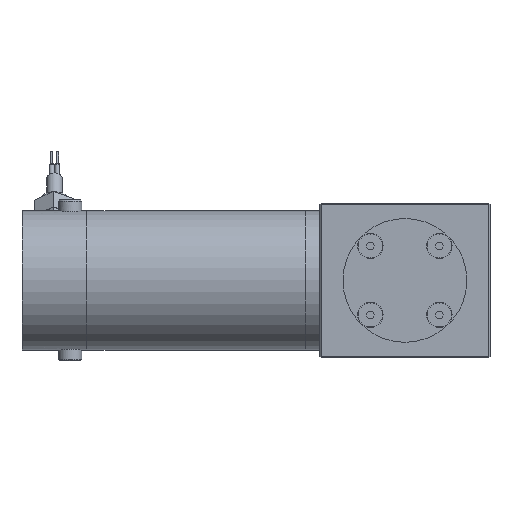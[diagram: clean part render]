
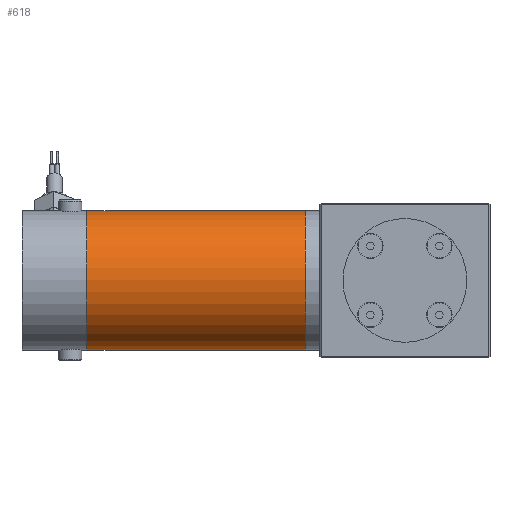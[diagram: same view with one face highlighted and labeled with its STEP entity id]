
A CAD part, left-side view. The second image highlights one B-rep face of the part: STEP entity #618.
In plain terms, the highlighted cylindrical face has radius 28.575 mm (diameter 57.15 mm), a partial arc.
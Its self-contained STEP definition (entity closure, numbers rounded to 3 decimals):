
#607 = EDGE_LOOP ( 'NONE', ( #4008, #13108, #3829, #9629 ) ) ;
#618 = ADVANCED_FACE ( 'NONE', ( #14126 ), #2862, .T. ) ;
#850 = CARTESIAN_POINT ( 'NONE',  ( 146.144, 184.359, 120.952 ) ) ;
#2363 = DIRECTION ( 'NONE',  ( 0., -1., 0. ) ) ;
#2862 = CYLINDRICAL_SURFACE ( 'NONE', #4767, 28.575 ) ;
#3550 = VECTOR ( 'NONE', #5002, 1000. ) ;
#3611 = DIRECTION ( 'NONE',  ( 0., 0., 1. ) ) ;
#3788 = AXIS2_PLACEMENT_3D ( 'NONE', #6089, #9963, #3611 ) ;
#3829 = ORIENTED_EDGE ( 'NONE', *, *, #14065, .T. ) ;
#3972 = DIRECTION ( 'NONE',  ( 0., 0., -1. ) ) ;
#4008 = ORIENTED_EDGE ( 'NONE', *, *, #12719, .F. ) ;
#4767 = AXIS2_PLACEMENT_3D ( 'NONE', #15232, #2363, #10182 ) ;
#5002 = DIRECTION ( 'NONE',  ( 0., -1., 0. ) ) ;
#5755 = LINE ( 'NONE', #7656, #3550 ) ;
#6089 = CARTESIAN_POINT ( 'NONE',  ( 146.144, 94.809, 92.377 ) ) ;
#7656 = CARTESIAN_POINT ( 'NONE',  ( 146.144, 500211.029, 120.952 ) ) ;
#7748 = DIRECTION ( 'NONE',  ( 0., -1., 0. ) ) ;
#8718 = VECTOR ( 'NONE', #10446, 1000. ) ;
#9038 = CARTESIAN_POINT ( 'NONE',  ( 146.144, 94.809, 120.952 ) ) ;
#9043 = CARTESIAN_POINT ( 'NONE',  ( 146.144, 184.359, 92.377 ) ) ;
#9103 = EDGE_CURVE ( 'NONE', #11135, #14707, #12794, .T. ) ;
#9629 = ORIENTED_EDGE ( 'NONE', *, *, #11073, .T. ) ;
#9963 = DIRECTION ( 'NONE',  ( 0., 1., 0. ) ) ;
#10182 = DIRECTION ( 'NONE',  ( 0., 0., -1. ) ) ;
#10446 = DIRECTION ( 'NONE',  ( 0., -1., 0. ) ) ;
#10652 = CARTESIAN_POINT ( 'NONE',  ( 146.144, 184.359, 63.802 ) ) ;
#11073 = EDGE_CURVE ( 'NONE', #13465, #11696, #12420, .T. ) ;
#11135 = VERTEX_POINT ( 'NONE', #850 ) ;
#11696 = VERTEX_POINT ( 'NONE', #9038 ) ;
#11837 = CARTESIAN_POINT ( 'NONE',  ( 146.144, 500211.029, 63.802 ) ) ;
#12420 = CIRCLE ( 'NONE', #3788, 28.575 ) ;
#12474 = AXIS2_PLACEMENT_3D ( 'NONE', #9043, #7748, #3972 ) ;
#12719 = EDGE_CURVE ( 'NONE', #11135, #11696, #5755, .T. ) ;
#12794 = CIRCLE ( 'NONE', #12474, 28.575 ) ;
#13108 = ORIENTED_EDGE ( 'NONE', *, *, #9103, .T. ) ;
#13465 = VERTEX_POINT ( 'NONE', #14565 ) ;
#14065 = EDGE_CURVE ( 'NONE', #14707, #13465, #15965, .T. ) ;
#14126 = FACE_OUTER_BOUND ( 'NONE', #607, .T. ) ;
#14565 = CARTESIAN_POINT ( 'NONE',  ( 146.144, 94.809, 63.802 ) ) ;
#14707 = VERTEX_POINT ( 'NONE', #10652 ) ;
#15232 = CARTESIAN_POINT ( 'NONE',  ( 146.144, 500211.029, 92.377 ) ) ;
#15965 = LINE ( 'NONE', #11837, #8718 ) ;
